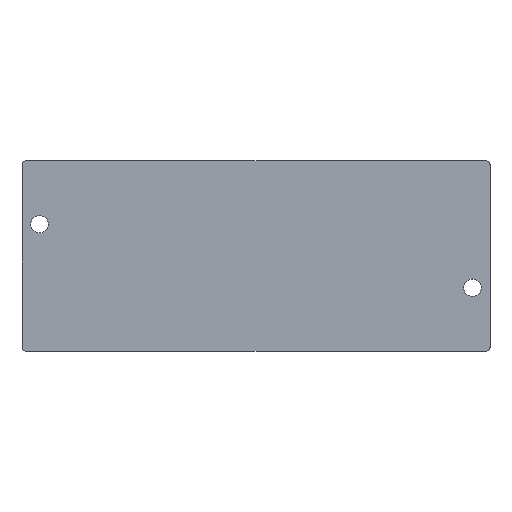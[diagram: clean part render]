
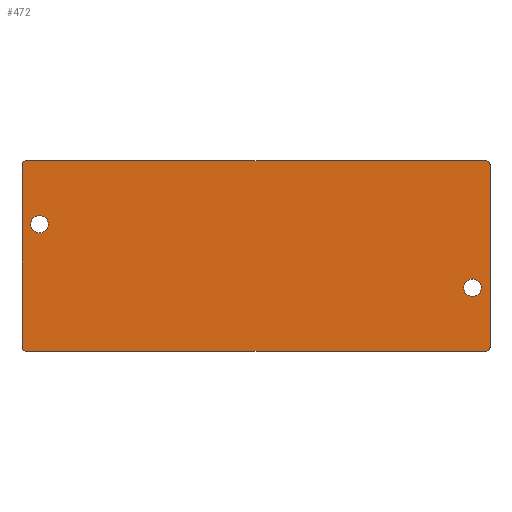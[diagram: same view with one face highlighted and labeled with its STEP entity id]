
A CAD part, top view. The second image highlights one B-rep face of the part: STEP entity #472.
In plain terms, the highlighted planar face has unit normal (0, 0, 1).
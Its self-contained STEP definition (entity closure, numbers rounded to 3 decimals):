
#23 = CARTESIAN_POINT ( 'NONE',  ( 0.5, 0.5, 2. ) ) ;
#31 = ORIENTED_EDGE ( 'NONE', *, *, #323, .T. ) ;
#41 = CIRCLE ( 'NONE', #324, 0.5 ) ;
#42 = DIRECTION ( 'NONE',  ( -1., 0., 0. ) ) ;
#46 = FACE_BOUND ( 'NONE', #66, .T. ) ;
#59 = AXIS2_PLACEMENT_3D ( 'NONE', #286, #428, #289 ) ;
#64 = CARTESIAN_POINT ( 'NONE',  ( 2.2, 16., 2. ) ) ;
#65 = EDGE_CURVE ( 'NONE', #308, #480, #245, .T. ) ;
#66 = EDGE_LOOP ( 'NONE', ( #379, #339 ) ) ;
#68 = ORIENTED_EDGE ( 'NONE', *, *, #284, .F. ) ;
#69 = CARTESIAN_POINT ( 'NONE',  ( 58.5, 0.5, 2. ) ) ;
#72 = VECTOR ( 'NONE', #303, 1000. ) ;
#79 = CARTESIAN_POINT ( 'NONE',  ( 0.5, 23.5, 2. ) ) ;
#85 = LINE ( 'NONE', #389, #296 ) ;
#89 = CARTESIAN_POINT ( 'NONE',  ( 59., 0.5, 2. ) ) ;
#101 = CIRCLE ( 'NONE', #421, 1.1 ) ;
#103 = CARTESIAN_POINT ( 'NONE',  ( 2.2, 16., 2. ) ) ;
#104 = VERTEX_POINT ( 'NONE', #291 ) ;
#105 = DIRECTION ( 'NONE',  ( 0., 1., 0. ) ) ;
#110 = DIRECTION ( 'NONE',  ( 0., 0., 1. ) ) ;
#111 = VERTEX_POINT ( 'NONE', #301 ) ;
#124 = LINE ( 'NONE', #396, #449 ) ;
#141 = CARTESIAN_POINT ( 'NONE',  ( 57.9, 8., 2. ) ) ;
#143 = LINE ( 'NONE', #384, #347 ) ;
#144 = CIRCLE ( 'NONE', #238, 1.1 ) ;
#152 = ORIENTED_EDGE ( 'NONE', *, *, #255, .T. ) ;
#153 = CARTESIAN_POINT ( 'NONE',  ( 1.1, 16., 2. ) ) ;
#156 = DIRECTION ( 'NONE',  ( 0., 0., 1. ) ) ;
#157 = EDGE_LOOP ( 'NONE', ( #442, #172, #168, #152, #31, #321, #387, #227 ) ) ;
#160 = CARTESIAN_POINT ( 'NONE',  ( 3.3, 16., 2. ) ) ;
#164 = PLANE ( 'NONE',  #355 ) ;
#168 = ORIENTED_EDGE ( 'NONE', *, *, #438, .T. ) ;
#172 = ORIENTED_EDGE ( 'NONE', *, *, #197, .T. ) ;
#176 = EDGE_LOOP ( 'NONE', ( #397, #68 ) ) ;
#180 = CIRCLE ( 'NONE', #250, 1.1 ) ;
#185 = DIRECTION ( 'NONE',  ( 1., 0., 0. ) ) ;
#186 = VERTEX_POINT ( 'NONE', #89 ) ;
#190 = DIRECTION ( 'NONE',  ( 0., 0., 1. ) ) ;
#197 = EDGE_CURVE ( 'NONE', #111, #231, #380, .T. ) ;
#202 = VERTEX_POINT ( 'NONE', #141 ) ;
#206 = CARTESIAN_POINT ( 'NONE',  ( 0., 0., 2. ) ) ;
#221 = DIRECTION ( 'NONE',  ( -1., 0., 0. ) ) ;
#222 = EDGE_CURVE ( 'NONE', #225, #411, #232, .T. ) ;
#225 = VERTEX_POINT ( 'NONE', #153 ) ;
#227 = ORIENTED_EDGE ( 'NONE', *, *, #403, .T. ) ;
#231 = VERTEX_POINT ( 'NONE', #446 ) ;
#232 = CIRCLE ( 'NONE', #298, 1.1 ) ;
#234 = VERTEX_POINT ( 'NONE', #305 ) ;
#236 = EDGE_CURVE ( 'NONE', #473, #111, #410, .T. ) ;
#238 = AXIS2_PLACEMENT_3D ( 'NONE', #103, #482, #185 ) ;
#239 = FACE_OUTER_BOUND ( 'NONE', #157, .T. ) ;
#245 = CIRCLE ( 'NONE', #59, 0.5 ) ;
#248 = DIRECTION ( 'NONE',  ( 0., 0., -1. ) ) ;
#250 = AXIS2_PLACEMENT_3D ( 'NONE', #288, #156, #352 ) ;
#255 = EDGE_CURVE ( 'NONE', #260, #186, #41, .T. ) ;
#258 = EDGE_CURVE ( 'NONE', #411, #225, #144, .T. ) ;
#260 = VERTEX_POINT ( 'NONE', #448 ) ;
#284 = EDGE_CURVE ( 'NONE', #104, #202, #101, .T. ) ;
#285 = DIRECTION ( 'NONE',  ( 1., 0., 0. ) ) ;
#286 = CARTESIAN_POINT ( 'NONE',  ( 58.5, 23.5, 2. ) ) ;
#288 = CARTESIAN_POINT ( 'NONE',  ( 56.8, 8., 2. ) ) ;
#289 = DIRECTION ( 'NONE',  ( -1., 0., 0. ) ) ;
#291 = CARTESIAN_POINT ( 'NONE',  ( 55.7, 8., 2. ) ) ;
#296 = VECTOR ( 'NONE', #285, 1000. ) ;
#298 = AXIS2_PLACEMENT_3D ( 'NONE', #64, #110, #386 ) ;
#301 = CARTESIAN_POINT ( 'NONE',  ( 0., 0.5, 2. ) ) ;
#303 = DIRECTION ( 'NONE',  ( 0., -1., 0. ) ) ;
#305 = CARTESIAN_POINT ( 'NONE',  ( 0.5, 24., 2. ) ) ;
#308 = VERTEX_POINT ( 'NONE', #408 ) ;
#316 = DIRECTION ( 'NONE',  ( -1., 0., 0. ) ) ;
#320 = CARTESIAN_POINT ( 'NONE',  ( 58.5, 24., 2. ) ) ;
#321 = ORIENTED_EDGE ( 'NONE', *, *, #65, .T. ) ;
#323 = EDGE_CURVE ( 'NONE', #186, #308, #143, .T. ) ;
#324 = AXIS2_PLACEMENT_3D ( 'NONE', #69, #412, #341 ) ;
#338 = CARTESIAN_POINT ( 'NONE',  ( 0., 0., 2. ) ) ;
#339 = ORIENTED_EDGE ( 'NONE', *, *, #222, .F. ) ;
#341 = DIRECTION ( 'NONE',  ( -1., 0., 0. ) ) ;
#347 = VECTOR ( 'NONE', #105, 1000. ) ;
#352 = DIRECTION ( 'NONE',  ( 1., 0., 0. ) ) ;
#354 = FACE_BOUND ( 'NONE', #176, .T. ) ;
#355 = AXIS2_PLACEMENT_3D ( 'NONE', #206, #248, #42 ) ;
#366 = EDGE_CURVE ( 'NONE', #202, #104, #180, .T. ) ;
#373 = AXIS2_PLACEMENT_3D ( 'NONE', #79, #426, #316 ) ;
#379 = ORIENTED_EDGE ( 'NONE', *, *, #258, .F. ) ;
#380 = CIRCLE ( 'NONE', #436, 0.5 ) ;
#384 = CARTESIAN_POINT ( 'NONE',  ( 59., 0., 2. ) ) ;
#386 = DIRECTION ( 'NONE',  ( 1., 0., 0. ) ) ;
#387 = ORIENTED_EDGE ( 'NONE', *, *, #489, .T. ) ;
#389 = CARTESIAN_POINT ( 'NONE',  ( 0., 0., 2. ) ) ;
#396 = CARTESIAN_POINT ( 'NONE',  ( 0., 24., 2. ) ) ;
#397 = ORIENTED_EDGE ( 'NONE', *, *, #366, .F. ) ;
#401 = DIRECTION ( 'NONE',  ( 0., 0., 1. ) ) ;
#403 = EDGE_CURVE ( 'NONE', #234, #473, #471, .T. ) ;
#408 = CARTESIAN_POINT ( 'NONE',  ( 59., 23.5, 2. ) ) ;
#410 = LINE ( 'NONE', #338, #72 ) ;
#411 = VERTEX_POINT ( 'NONE', #160 ) ;
#412 = DIRECTION ( 'NONE',  ( 0., 0., 1. ) ) ;
#419 = DIRECTION ( 'NONE',  ( -1., 0., 0. ) ) ;
#421 = AXIS2_PLACEMENT_3D ( 'NONE', #476, #190, #441 ) ;
#426 = DIRECTION ( 'NONE',  ( 0., 0., 1. ) ) ;
#428 = DIRECTION ( 'NONE',  ( 0., 0., 1. ) ) ;
#436 = AXIS2_PLACEMENT_3D ( 'NONE', #23, #401, #221 ) ;
#438 = EDGE_CURVE ( 'NONE', #231, #260, #85, .T. ) ;
#441 = DIRECTION ( 'NONE',  ( 1., 0., 0. ) ) ;
#442 = ORIENTED_EDGE ( 'NONE', *, *, #236, .T. ) ;
#446 = CARTESIAN_POINT ( 'NONE',  ( 0.5, 0., 2. ) ) ;
#448 = CARTESIAN_POINT ( 'NONE',  ( 58.5, 0., 2. ) ) ;
#449 = VECTOR ( 'NONE', #419, 1000. ) ;
#452 = CARTESIAN_POINT ( 'NONE',  ( 0., 23.5, 2. ) ) ;
#471 = CIRCLE ( 'NONE', #373, 0.5 ) ;
#472 = ADVANCED_FACE ( 'NONE', ( #46, #354, #239 ), #164, .F. ) ;
#473 = VERTEX_POINT ( 'NONE', #452 ) ;
#476 = CARTESIAN_POINT ( 'NONE',  ( 56.8, 8., 2. ) ) ;
#480 = VERTEX_POINT ( 'NONE', #320 ) ;
#482 = DIRECTION ( 'NONE',  ( 0., 0., 1. ) ) ;
#489 = EDGE_CURVE ( 'NONE', #480, #234, #124, .T. ) ;
